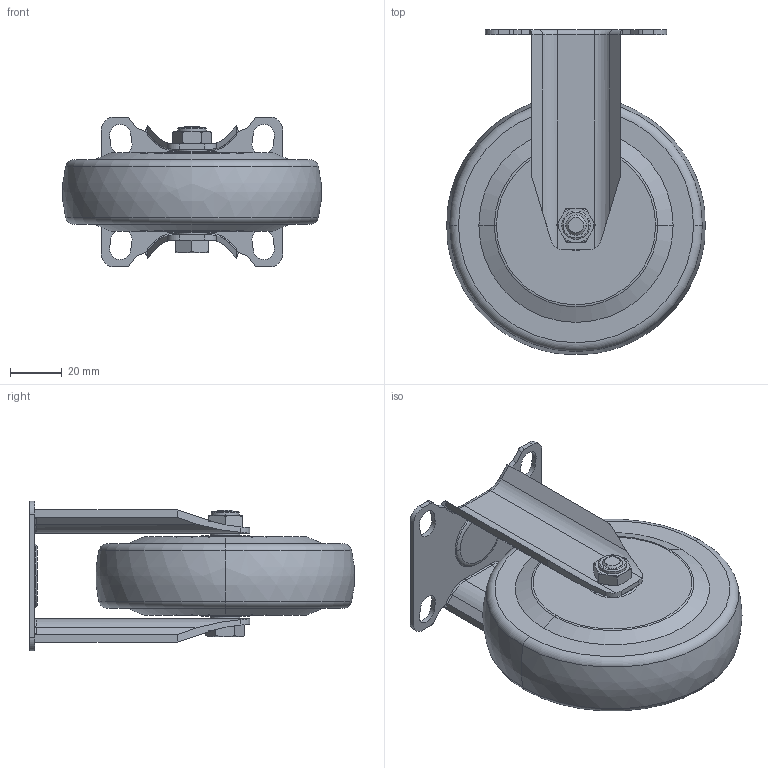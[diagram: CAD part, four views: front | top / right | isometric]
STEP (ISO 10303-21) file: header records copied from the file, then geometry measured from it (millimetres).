
FILE_DESCRIPTION((''),'2;1');
FILE_NAME('S34704_ASM','2021-07-26T',('lenovo'),(''),'PRO/ENGINEER BY PARAMETRIC TECHNOLOGY CORPORATION, 2010280','PRO/ENGINEER BY PARAMETRIC TECHNOLOGY CORPORATION, 2010280','');
FILE_SCHEMA(('CONFIG_CONTROL_DESIGN'));
Length unit declared in the file: millimetre
Products named in the file (5): S344-10; 364-964; S340-33; S340-34; S34704_ASM
Assembly tree (4 placements, depth 2):
  S34704_ASM
    S344-10
    364-964
    S340-33
    S340-34
Bounding box: 99.72 x 125.36 x 57.8 mm (x, y, z)
Volume: 229567.8 mm3; surface area: 44194.7 mm2
Topology: 4 solids, 4 shells, 205 faces, 510 edges, 324 vertices
Faces by surface type: plane 89, cylinder 60, torus 34, cone 20, bspline 2
Entity records: 6593 total; most frequent: CARTESIAN_POINT 1516, DIRECTION 1068, ORIENTED_EDGE 1020, EDGE_CURVE 510, AXIS2_PLACEMENT_3D 408, VERTEX_POINT 324, VECTOR 252, LINE 252
